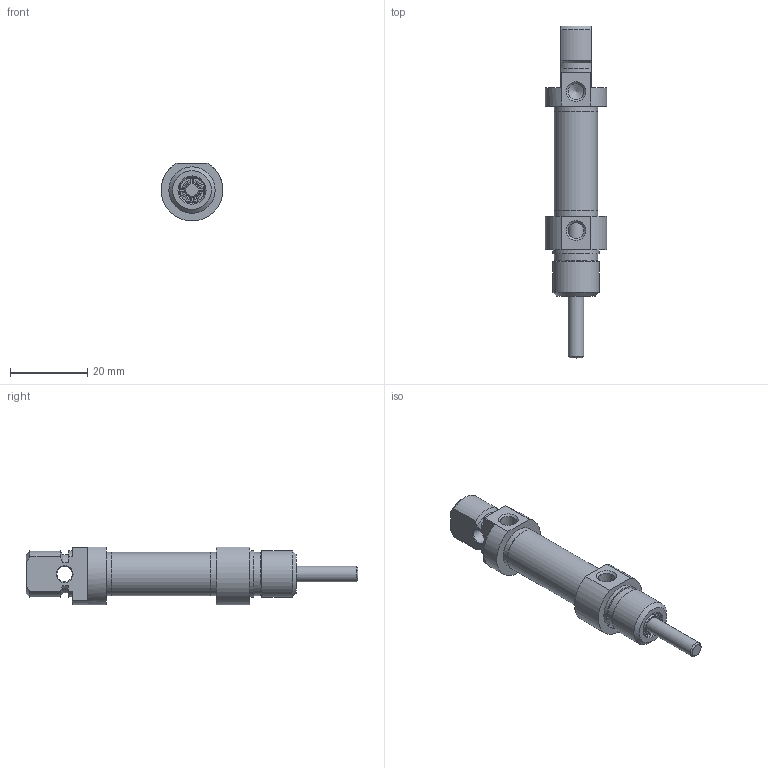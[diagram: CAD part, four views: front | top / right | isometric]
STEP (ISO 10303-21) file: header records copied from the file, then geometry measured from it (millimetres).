
FILE_DESCRIPTION((''),'2;1');
FILE_NAME('T:\Archivio Inventor\- 00 NUOVI STP PER SITO CON STELO CHE SI MUOVE\SERIE O\ODM\ODM010.---.GS.M\ODM010.000.GS.M.stp','2014-02-25T14:19:32',('carlo.corazza'),(''),'Autodesk Inventor 2012','Autodesk Inventor 2012','');
FILE_SCHEMA(('AUTOMOTIVE_DESIGN { 1 0 10303 214 1 1 1 1 }'));
Length unit declared in the file: millimetre
Products named in the file (5): ODM010..GS.M; TP; CORPO-000; TA; STELO-000
Assembly tree (4 placements, depth 2):
  ODM010..GS.M
    TP
    CORPO-000
    TA
    STELO-000
Bounding box: 16 x 86 x 15 mm (x, y, z)
Volume: 6386.8 mm3; surface area: 5764.6 mm2
Topology: 4 solids, 4 shells, 90 faces, 185 edges, 118 vertices
Faces by surface type: plane 32, cylinder 28, cone 23, torus 7
Full cylindrical faces by diameter (mm): 3 x1, 4 x2, 4.134 x2, 4.426 x1, 4.7 x1, 6.5 x1, 6.6 x1, 6.7 x1, 8.1 x1, 8.2 x1, 10 x1, 11.2 x3, 11.27 x1, 12 x2
Entity records: 2347 total; most frequent: CARTESIAN_POINT 410, DIRECTION 404, ORIENTED_EDGE 260, AXIS2_PLACEMENT_3D 184, EDGE_LOOP 154, EDGE_CURVE 130, VERTEX_POINT 108, FACE_OUTER_BOUND 90
